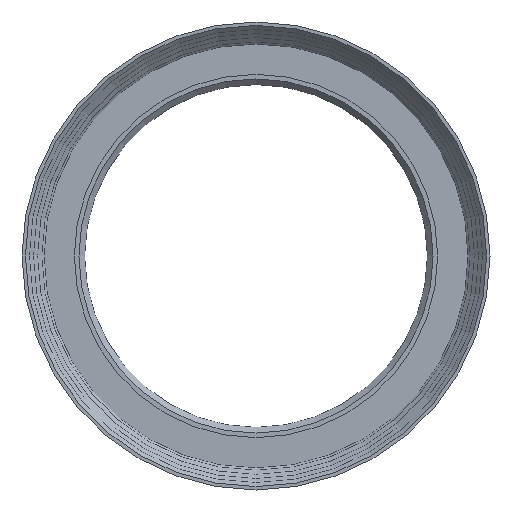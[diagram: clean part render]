
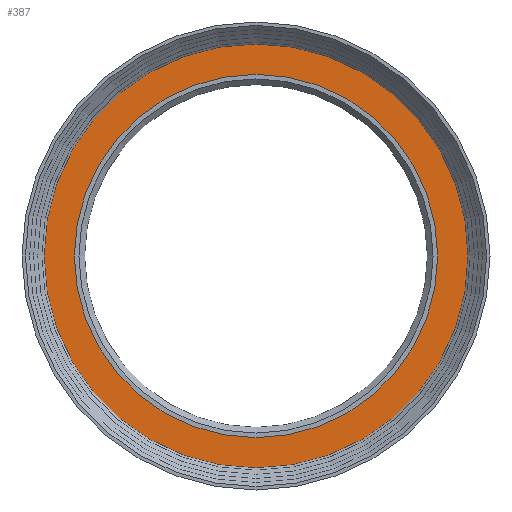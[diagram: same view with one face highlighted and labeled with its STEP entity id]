
A CAD part, front view. The second image highlights one B-rep face of the part: STEP entity #387.
In plain terms, the highlighted planar face has unit normal (0, -1, 0).
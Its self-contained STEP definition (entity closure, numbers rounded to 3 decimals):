
#216 = CYLINDRICAL_SURFACE('',#217,159.);
#217 = AXIS2_PLACEMENT_3D('',#218,#219,#220);
#218 = CARTESIAN_POINT('',(0.,317.,0.));
#219 = DIRECTION('',(-0.,-1.,0.));
#220 = DIRECTION('',(1.,0.,0.));
#293 = EDGE_CURVE('',#294,#294,#296,.T.);
#294 = VERTEX_POINT('',#295);
#295 = CARTESIAN_POINT('',(159.,310.,0.));
#296 = SURFACE_CURVE('',#297,(#302,#309),.PCURVE_S1.);
#297 = CIRCLE('',#298,159.);
#298 = AXIS2_PLACEMENT_3D('',#299,#300,#301);
#299 = CARTESIAN_POINT('',(0.,310.,0.));
#300 = DIRECTION('',(0.,-1.,0.));
#301 = DIRECTION('',(1.,-0.,0.));
#302 = PCURVE('',#216,#303);
#303 = DEFINITIONAL_REPRESENTATION('',(#304),#308);
#304 = LINE('',#305,#306);
#305 = CARTESIAN_POINT('',(-6.283,7.));
#306 = VECTOR('',#307,1.);
#307 = DIRECTION('',(1.,-0.));
#308 = ( GEOMETRIC_REPRESENTATION_CONTEXT(2) 
PARAMETRIC_REPRESENTATION_CONTEXT() REPRESENTATION_CONTEXT('2D SPACE',''
  ) );
#309 = PCURVE('',#310,#315);
#310 = PLANE('',#311);
#311 = AXIS2_PLACEMENT_3D('',#312,#313,#314);
#312 = CARTESIAN_POINT('',(0.,310.,0.));
#313 = DIRECTION('',(0.,1.,0.));
#314 = DIRECTION('',(1.,0.,0.));
#315 = DEFINITIONAL_REPRESENTATION('',(#316),#324);
#316 = ( BOUNDED_CURVE() B_SPLINE_CURVE(2,(#317,#318,#319,#320,#321,#322
,#323),.UNSPECIFIED.,.T.,.F.) B_SPLINE_CURVE_WITH_KNOTS((1,2,2,2,2,1),(
    -2.094,0.,2.094,4.189,6.283,
8.378),.UNSPECIFIED.) CURVE() GEOMETRIC_REPRESENTATION_ITEM() 
RATIONAL_B_SPLINE_CURVE((1.,0.5,1.,0.5,1.,0.5,1.)) REPRESENTATION_ITEM(
  '') );
#317 = CARTESIAN_POINT('',(159.,0.));
#318 = CARTESIAN_POINT('',(159.,-275.396));
#319 = CARTESIAN_POINT('',(-79.5,-137.698));
#320 = CARTESIAN_POINT('',(-318.,0.));
#321 = CARTESIAN_POINT('',(-79.5,137.698));
#322 = CARTESIAN_POINT('',(159.,275.396));
#323 = CARTESIAN_POINT('',(159.,0.));
#324 = ( GEOMETRIC_REPRESENTATION_CONTEXT(2) 
PARAMETRIC_REPRESENTATION_CONTEXT() REPRESENTATION_CONTEXT('2D SPACE',''
  ) );
#387 = ADVANCED_FACE('',(#388,#423),#310,.F.);
#388 = FACE_BOUND('',#389,.F.);
#389 = EDGE_LOOP('',(#390));
#390 = ORIENTED_EDGE('',*,*,#391,.F.);
#391 = EDGE_CURVE('',#392,#392,#394,.T.);
#392 = VERTEX_POINT('',#393);
#393 = CARTESIAN_POINT('',(185.627,310.,0.));
#394 = SURFACE_CURVE('',#395,(#400,#411),.PCURVE_S1.);
#395 = CIRCLE('',#396,185.627);
#396 = AXIS2_PLACEMENT_3D('',#397,#398,#399);
#397 = CARTESIAN_POINT('',(0.,310.,0.));
#398 = DIRECTION('',(0.,-1.,0.));
#399 = DIRECTION('',(1.,-0.,0.));
#400 = PCURVE('',#310,#401);
#401 = DEFINITIONAL_REPRESENTATION('',(#402),#410);
#402 = ( BOUNDED_CURVE() B_SPLINE_CURVE(2,(#403,#404,#405,#406,#407,#408
,#409),.UNSPECIFIED.,.T.,.F.) B_SPLINE_CURVE_WITH_KNOTS((1,2,2,2,2,1),(
    -2.094,0.,2.094,4.189,6.283,
8.378),.UNSPECIFIED.) CURVE() GEOMETRIC_REPRESENTATION_ITEM() 
RATIONAL_B_SPLINE_CURVE((1.,0.5,1.,0.5,1.,0.5,1.)) REPRESENTATION_ITEM(
  '') );
#403 = CARTESIAN_POINT('',(185.627,0.));
#404 = CARTESIAN_POINT('',(185.627,-321.516));
#405 = CARTESIAN_POINT('',(-92.814,-160.758));
#406 = CARTESIAN_POINT('',(-371.254,0.));
#407 = CARTESIAN_POINT('',(-92.814,160.758));
#408 = CARTESIAN_POINT('',(185.627,321.516));
#409 = CARTESIAN_POINT('',(185.627,0.));
#410 = ( GEOMETRIC_REPRESENTATION_CONTEXT(2) 
PARAMETRIC_REPRESENTATION_CONTEXT() REPRESENTATION_CONTEXT('2D SPACE',''
  ) );
#411 = PCURVE('',#412,#417);
#412 = CONICAL_SURFACE('',#413,183.686,0.861);
#413 = AXIS2_PLACEMENT_3D('',#414,#415,#416);
#414 = CARTESIAN_POINT('',(0.,311.667,0.));
#415 = DIRECTION('',(-0.,-1.,0.));
#416 = DIRECTION('',(1.,0.,0.));
#417 = DEFINITIONAL_REPRESENTATION('',(#418),#422);
#418 = LINE('',#419,#420);
#419 = CARTESIAN_POINT('',(-6.283,1.667));
#420 = VECTOR('',#421,1.);
#421 = DIRECTION('',(1.,-0.));
#422 = ( GEOMETRIC_REPRESENTATION_CONTEXT(2) 
PARAMETRIC_REPRESENTATION_CONTEXT() REPRESENTATION_CONTEXT('2D SPACE',''
  ) );
#423 = FACE_BOUND('',#424,.F.);
#424 = EDGE_LOOP('',(#425));
#425 = ORIENTED_EDGE('',*,*,#293,.T.);
